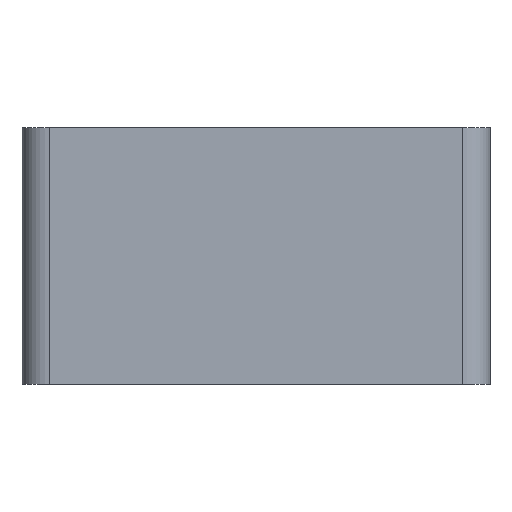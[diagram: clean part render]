
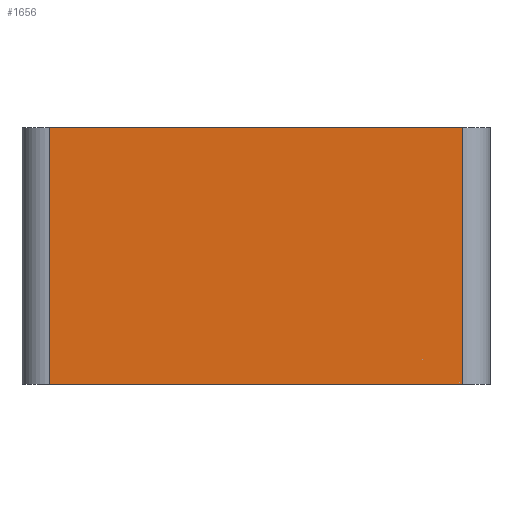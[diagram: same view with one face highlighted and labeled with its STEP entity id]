
A CAD part, left-side view. The second image highlights one B-rep face of the part: STEP entity #1656.
In plain terms, the highlighted planar face has unit normal (-1, 0, 0).
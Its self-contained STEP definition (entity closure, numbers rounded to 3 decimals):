
#44 = PLANE('',#45);
#45 = AXIS2_PLACEMENT_3D('',#46,#47,#48);
#46 = CARTESIAN_POINT('',(61.,-41.,10.));
#47 = DIRECTION('',(0.,0.,1.));
#48 = DIRECTION('',(1.,0.,0.));
#100 = PLANE('',#101);
#101 = AXIS2_PLACEMENT_3D('',#102,#103,#104);
#102 = CARTESIAN_POINT('',(61.,-41.,-36.));
#103 = DIRECTION('',(0.,0.,1.));
#104 = DIRECTION('',(1.,0.,0.));
#313 = VERTEX_POINT('',#314);
#314 = CARTESIAN_POINT('',(-43.,-36.,10.));
#329 = CYLINDRICAL_SURFACE('',#330,5.);
#330 = AXIS2_PLACEMENT_3D('',#331,#332,#333);
#331 = CARTESIAN_POINT('',(-38.,-36.,-36.));
#332 = DIRECTION('',(-0.,-0.,1.));
#333 = DIRECTION('',(-1.,-0.,-0.));
#341 = EDGE_CURVE('',#313,#342,#344,.T.);
#342 = VERTEX_POINT('',#343);
#343 = CARTESIAN_POINT('',(-43.,38.,10.));
#344 = SURFACE_CURVE('',#345,(#349,#356),.PCURVE_S1.);
#345 = LINE('',#346,#347);
#346 = CARTESIAN_POINT('',(-43.,-41.,10.));
#347 = VECTOR('',#348,1.);
#348 = DIRECTION('',(-0.,1.,0.));
#349 = PCURVE('',#44,#350);
#350 = DEFINITIONAL_REPRESENTATION('',(#351),#355);
#351 = LINE('',#352,#353);
#352 = CARTESIAN_POINT('',(-104.,0.));
#353 = VECTOR('',#354,1.);
#354 = DIRECTION('',(-0.,1.));
#355 = ( GEOMETRIC_REPRESENTATION_CONTEXT(2) 
PARAMETRIC_REPRESENTATION_CONTEXT() REPRESENTATION_CONTEXT('2D SPACE',''
  ) );
#356 = PCURVE('',#357,#362);
#357 = PLANE('',#358);
#358 = AXIS2_PLACEMENT_3D('',#359,#360,#361);
#359 = CARTESIAN_POINT('',(-43.,-41.,-36.));
#360 = DIRECTION('',(-1.,-0.,0.));
#361 = DIRECTION('',(0.,0.,-1.));
#362 = DEFINITIONAL_REPRESENTATION('',(#363),#367);
#363 = LINE('',#364,#365);
#364 = CARTESIAN_POINT('',(-46.,-0.));
#365 = VECTOR('',#366,1.);
#366 = DIRECTION('',(-0.,-1.));
#367 = ( GEOMETRIC_REPRESENTATION_CONTEXT(2) 
PARAMETRIC_REPRESENTATION_CONTEXT() REPRESENTATION_CONTEXT('2D SPACE',''
  ) );
#390 = CYLINDRICAL_SURFACE('',#391,5.);
#391 = AXIS2_PLACEMENT_3D('',#392,#393,#394);
#392 = CARTESIAN_POINT('',(-38.,38.,-36.));
#393 = DIRECTION('',(-0.,-0.,1.));
#394 = DIRECTION('',(-1.,-0.,-0.));
#802 = VERTEX_POINT('',#803);
#803 = CARTESIAN_POINT('',(-43.,-36.,-36.));
#825 = EDGE_CURVE('',#802,#826,#828,.T.);
#826 = VERTEX_POINT('',#827);
#827 = CARTESIAN_POINT('',(-43.,38.,-36.));
#828 = SURFACE_CURVE('',#829,(#833,#840),.PCURVE_S1.);
#829 = LINE('',#830,#831);
#830 = CARTESIAN_POINT('',(-43.,-41.,-36.));
#831 = VECTOR('',#832,1.);
#832 = DIRECTION('',(-0.,1.,0.));
#833 = PCURVE('',#100,#834);
#834 = DEFINITIONAL_REPRESENTATION('',(#835),#839);
#835 = LINE('',#836,#837);
#836 = CARTESIAN_POINT('',(-104.,0.));
#837 = VECTOR('',#838,1.);
#838 = DIRECTION('',(-0.,1.));
#839 = ( GEOMETRIC_REPRESENTATION_CONTEXT(2) 
PARAMETRIC_REPRESENTATION_CONTEXT() REPRESENTATION_CONTEXT('2D SPACE',''
  ) );
#840 = PCURVE('',#357,#841);
#841 = DEFINITIONAL_REPRESENTATION('',(#842),#846);
#842 = LINE('',#843,#844);
#843 = CARTESIAN_POINT('',(-0.,-0.));
#844 = VECTOR('',#845,1.);
#845 = DIRECTION('',(-0.,-1.));
#846 = ( GEOMETRIC_REPRESENTATION_CONTEXT(2) 
PARAMETRIC_REPRESENTATION_CONTEXT() REPRESENTATION_CONTEXT('2D SPACE',''
  ) );
#1609 = EDGE_CURVE('',#802,#313,#1610,.T.);
#1610 = SURFACE_CURVE('',#1611,(#1615,#1622),.PCURVE_S1.);
#1611 = LINE('',#1612,#1613);
#1612 = CARTESIAN_POINT('',(-43.,-36.,-36.));
#1613 = VECTOR('',#1614,1.);
#1614 = DIRECTION('',(-0.,-0.,1.));
#1615 = PCURVE('',#329,#1616);
#1616 = DEFINITIONAL_REPRESENTATION('',(#1617),#1621);
#1617 = LINE('',#1618,#1619);
#1618 = CARTESIAN_POINT('',(0.,0.));
#1619 = VECTOR('',#1620,1.);
#1620 = DIRECTION('',(0.,1.));
#1621 = ( GEOMETRIC_REPRESENTATION_CONTEXT(2) 
PARAMETRIC_REPRESENTATION_CONTEXT() REPRESENTATION_CONTEXT('2D SPACE',''
  ) );
#1622 = PCURVE('',#357,#1623);
#1623 = DEFINITIONAL_REPRESENTATION('',(#1624),#1628);
#1624 = LINE('',#1625,#1626);
#1625 = CARTESIAN_POINT('',(-0.,-5.));
#1626 = VECTOR('',#1627,1.);
#1627 = DIRECTION('',(-1.,-0.));
#1628 = ( GEOMETRIC_REPRESENTATION_CONTEXT(2) 
PARAMETRIC_REPRESENTATION_CONTEXT() REPRESENTATION_CONTEXT('2D SPACE',''
  ) );
#1636 = EDGE_CURVE('',#826,#342,#1637,.T.);
#1637 = SURFACE_CURVE('',#1638,(#1642,#1649),.PCURVE_S1.);
#1638 = LINE('',#1639,#1640);
#1639 = CARTESIAN_POINT('',(-43.,38.,-36.));
#1640 = VECTOR('',#1641,1.);
#1641 = DIRECTION('',(-0.,-0.,1.));
#1642 = PCURVE('',#390,#1643);
#1643 = DEFINITIONAL_REPRESENTATION('',(#1644),#1648);
#1644 = LINE('',#1645,#1646);
#1645 = CARTESIAN_POINT('',(-0.,0.));
#1646 = VECTOR('',#1647,1.);
#1647 = DIRECTION('',(-0.,1.));
#1648 = ( GEOMETRIC_REPRESENTATION_CONTEXT(2) 
PARAMETRIC_REPRESENTATION_CONTEXT() REPRESENTATION_CONTEXT('2D SPACE',''
  ) );
#1649 = PCURVE('',#357,#1650);
#1650 = DEFINITIONAL_REPRESENTATION('',(#1651),#1655);
#1651 = LINE('',#1652,#1653);
#1652 = CARTESIAN_POINT('',(-0.,-79.));
#1653 = VECTOR('',#1654,1.);
#1654 = DIRECTION('',(-1.,-0.));
#1655 = ( GEOMETRIC_REPRESENTATION_CONTEXT(2) 
PARAMETRIC_REPRESENTATION_CONTEXT() REPRESENTATION_CONTEXT('2D SPACE',''
  ) );
#1656 = ADVANCED_FACE('',(#1657),#357,.T.);
#1657 = FACE_BOUND('',#1658,.F.);
#1658 = EDGE_LOOP('',(#1659,#1660,#1661,#1662));
#1659 = ORIENTED_EDGE('',*,*,#341,.F.);
#1660 = ORIENTED_EDGE('',*,*,#1609,.F.);
#1661 = ORIENTED_EDGE('',*,*,#825,.T.);
#1662 = ORIENTED_EDGE('',*,*,#1636,.T.);
